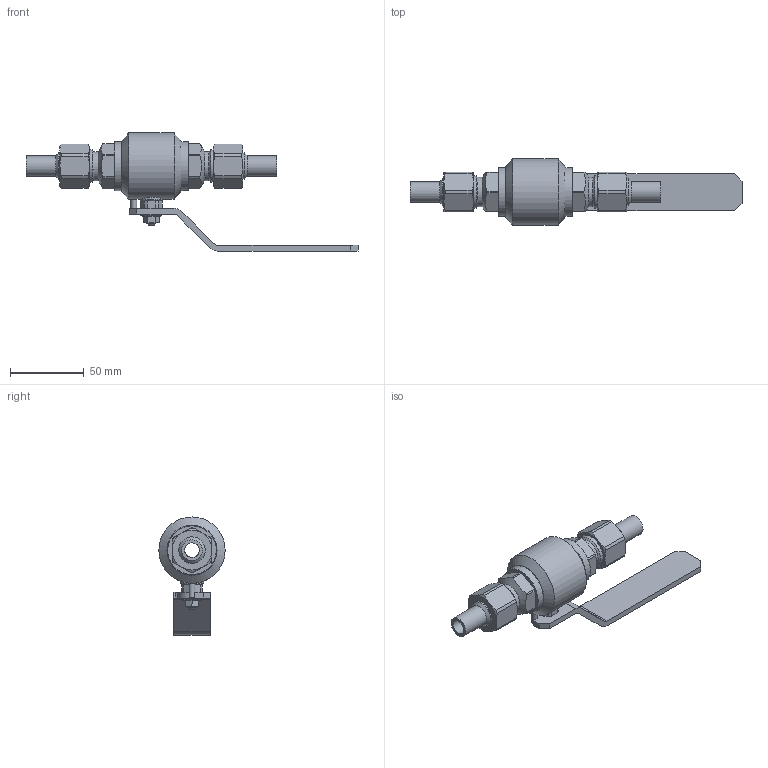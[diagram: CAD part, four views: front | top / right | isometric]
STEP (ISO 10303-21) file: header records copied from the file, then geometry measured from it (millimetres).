
FILE_DESCRIPTION(('STEP AP203'), '1');
FILE_NAME('ZARDP 010.100.30.P.stp', '2013-12-05T08:41:47', ('1'), ('1'), 'ASCON STEP Converter 1.3', 'Kompas 3D', '');
FILE_SCHEMA(('CONFIG_CONTROL_DESIGN','SUPPORT_RESOURCE_SCHEMA'));
Length unit declared in the file: millimetre
Products named in the file (1): 54
Bounding box: 225 x 45 x 80 mm (x, y, z)
Volume: 113658.8 mm3; surface area: 40200.5 mm2
Topology: 1 solids, 3 shells, 251 faces, 589 edges, 362 vertices
Faces by surface type: plane 117, cylinder 73, cone 58, bspline 3
Full cylindrical faces by diameter (mm): 4 x2, 6 x2, 8.673 x1, 9 x1, 10 x5, 10.1 x1, 14 x2, 14.2 x1, 15.8 x1, 16 x5, 18 x2, 19.8 x2, 20 x2, 20.376 x2, 22 x2, 25.4 x1, 27 x1, 33 x2, 45 x1
Entity records: 9609 total; most frequent: CARTESIAN_POINT 3751, DIRECTION 1236, ORIENTED_EDGE 1176, EDGE_CURVE 588, AXIS2_PLACEMENT_3D 486, VERTEX_POINT 362, EDGE_LOOP 284, LINE 264
